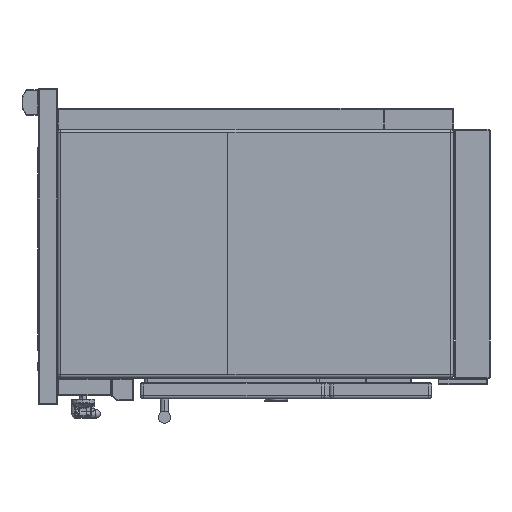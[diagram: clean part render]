
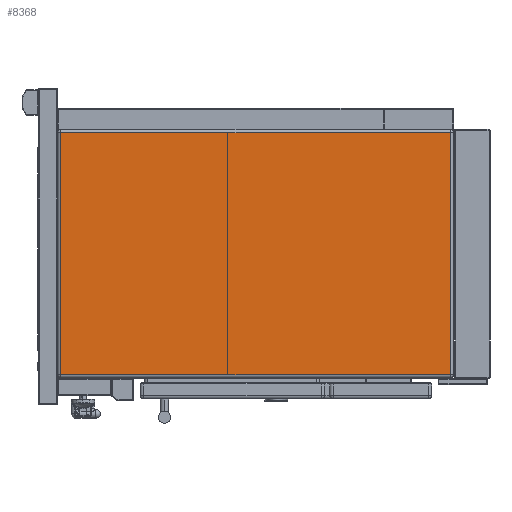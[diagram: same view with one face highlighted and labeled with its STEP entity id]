
A CAD part, left-side view. The second image highlights one B-rep face of the part: STEP entity #8368.
In plain terms, the highlighted planar face has unit normal (-1, 0, 0).
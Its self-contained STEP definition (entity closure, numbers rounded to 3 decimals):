
#2515=DIRECTION('',(0.,1.,0.));
#2516=VECTOR('',#2515,801.);
#2517=CARTESIAN_POINT('',(-900.,82.,-249.));
#2518=LINE('',#2517,#2516);
#2519=DIRECTION('',(0.,0.,1.));
#2520=VECTOR('',#2519,498.);
#2521=CARTESIAN_POINT('',(-900.,883.,-249.));
#2522=LINE('',#2521,#2520);
#2523=DIRECTION('',(0.,-1.,0.));
#2524=VECTOR('',#2523,801.);
#2525=CARTESIAN_POINT('',(-900.,883.,249.));
#2526=LINE('',#2525,#2524);
#2527=DIRECTION('',(0.,0.,-1.));
#2528=VECTOR('',#2527,498.);
#2529=CARTESIAN_POINT('',(-900.,82.,249.));
#2530=LINE('',#2529,#2528);
#3164=CARTESIAN_POINT('',(-900.,82.,-249.));
#3165=CARTESIAN_POINT('',(-900.,883.,-249.));
#3166=VERTEX_POINT('',#3164);
#3167=VERTEX_POINT('',#3165);
#3168=CARTESIAN_POINT('',(-900.,82.,249.));
#3169=VERTEX_POINT('',#3168);
#3186=CARTESIAN_POINT('',(-900.,883.,249.));
#3187=VERTEX_POINT('',#3186);
#8355=CARTESIAN_POINT('',(-900.,0.,0.));
#8356=DIRECTION('',(-1.,0.,0.));
#8357=DIRECTION('',(0.,0.,1.));
#8358=AXIS2_PLACEMENT_3D('',#8355,#8356,#8357);
#8359=PLANE('',#8358);
#8361=ORIENTED_EDGE('',*,*,#8360,.T.);
#8362=ORIENTED_EDGE('',*,*,#8321,.T.);
#8363=ORIENTED_EDGE('',*,*,#8345,.T.);
#8365=ORIENTED_EDGE('',*,*,#8364,.T.);
#8366=EDGE_LOOP('',(#8361,#8362,#8363,#8365));
#8367=FACE_OUTER_BOUND('',#8366,.F.);
#8321=EDGE_CURVE('',#3167,#3187,#2522,.T.);
#8345=EDGE_CURVE('',#3187,#3169,#2526,.T.);
#8360=EDGE_CURVE('',#3166,#3167,#2518,.T.);
#8364=EDGE_CURVE('',#3169,#3166,#2530,.T.);
#8368=ADVANCED_FACE('',(#8367),#8359,.T.);
